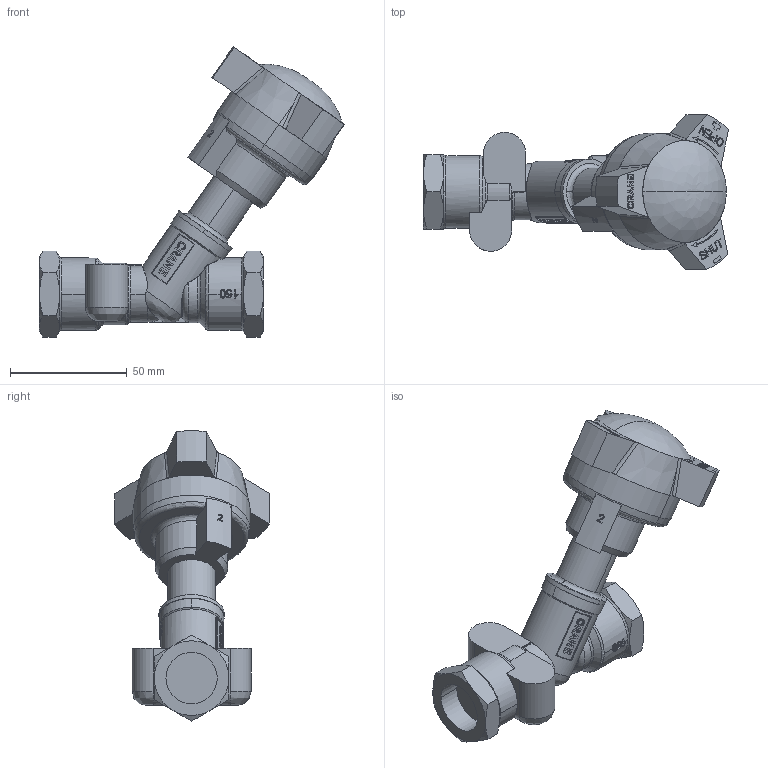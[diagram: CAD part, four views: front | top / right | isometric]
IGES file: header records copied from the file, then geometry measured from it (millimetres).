
Global section: file name: No Iges File Name specified; native system: AutoDesk Inventor R12.0; preprocessor: AutoDesk Inventor Iges Exporter R12.0; date: 20110304.141531; units: millimetre
Bounding box: 130.74 x 66.44 x 124.49 mm (x, y, z)
Volume: 173476.9 mm3; surface area: 28971.2 mm2
Topology: 1 solids, 1 shells, 778 faces, 2112 edges, 1381 vertices
Faces by surface type: bspline 368, plane 301, cylinder 58, cone 36, torus 7, revolution 6, sphere 2
